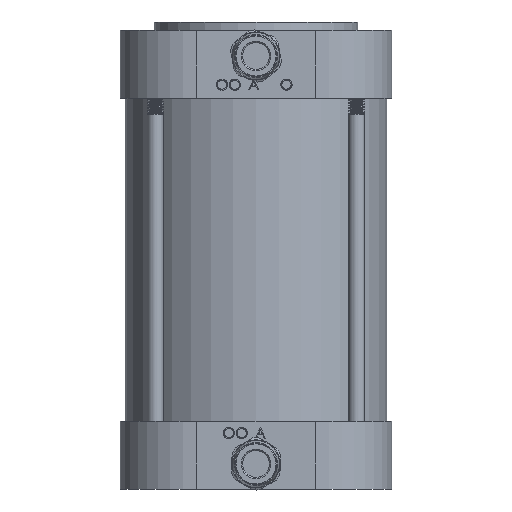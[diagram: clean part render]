
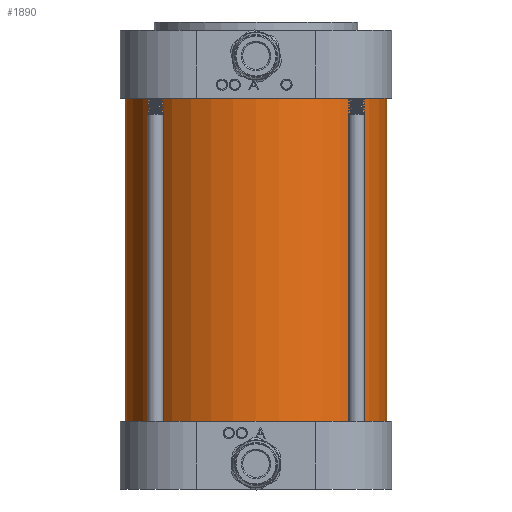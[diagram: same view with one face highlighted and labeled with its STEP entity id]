
A CAD part, front view. The second image highlights one B-rep face of the part: STEP entity #1890.
In plain terms, the highlighted cylindrical face has radius 48.895 mm (diameter 97.79 mm), a partial arc.
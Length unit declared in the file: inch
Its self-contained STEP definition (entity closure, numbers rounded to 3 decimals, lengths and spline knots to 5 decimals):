
#1812 = CARTESIAN_POINT ( 'NONE',  ( 1.925, 0., 5. ) ) ;
#1890 = ADVANCED_FACE ( 'Defeatured_0_213', ( #7604 ), #23340, .T. ) ;
#6054 = DIRECTION ( 'NONE',  ( -1., 0., 0. ) ) ;
#7464 = AXIS2_PLACEMENT_3D ( 'NONE', #24014, #28039, #18799 ) ;
#7604 = FACE_OUTER_BOUND ( 'NONE', #19972, .T. ) ;
#9920 = AXIS2_PLACEMENT_3D ( 'NONE', #41503, #42284, #6054 ) ;
#10910 = CIRCLE ( 'NONE', #7464, 1.925 ) ;
#12946 = VERTEX_POINT ( 'NONE', #30439 ) ;
#14866 = VECTOR ( 'NONE', #22018, 39.37008 ) ;
#17727 = CIRCLE ( 'NONE', #46426, 1.925 ) ;
#18726 = ORIENTED_EDGE ( 'NONE', *, *, #59041, .F. ) ;
#18799 = DIRECTION ( 'NONE',  ( 1., 0., 0. ) ) ;
#19972 = EDGE_LOOP ( 'NONE', ( #34738, #18726, #40457, #47226 ) ) ;
#21532 = EDGE_CURVE ( 'NONE', #48782, #31358, #29667, .T. ) ;
#22018 = DIRECTION ( 'NONE',  ( 0., 0., -1. ) ) ;
#23340 = CYLINDRICAL_SURFACE ( 'NONE', #9920, 1.925 ) ;
#24014 = CARTESIAN_POINT ( 'NONE',  ( 0., 0., 4.875 ) ) ;
#25116 = DIRECTION ( 'NONE',  ( 1., 0., 0. ) ) ;
#25305 = CARTESIAN_POINT ( 'NONE',  ( 0., 0., 0. ) ) ;
#26444 = CARTESIAN_POINT ( 'NONE',  ( -1.925, 0., 5. ) ) ;
#28039 = DIRECTION ( 'NONE',  ( 0., 0., 1. ) ) ;
#28398 = CARTESIAN_POINT ( 'NONE',  ( -1.925, 0., 0. ) ) ;
#29667 = LINE ( 'NONE', #1812, #54716 ) ;
#30439 = CARTESIAN_POINT ( 'NONE',  ( -1.925, 0., 4.875 ) ) ;
#31358 = VERTEX_POINT ( 'NONE', #43077 ) ;
#33843 = DIRECTION ( 'NONE',  ( 0., 0., -1. ) ) ;
#34738 = ORIENTED_EDGE ( 'NONE', *, *, #21532, .F. ) ;
#36794 = CARTESIAN_POINT ( 'NONE',  ( 1.925, 0., 4.875 ) ) ;
#40457 = ORIENTED_EDGE ( 'NONE', *, *, #54390, .T. ) ;
#40624 = EDGE_CURVE ( 'Defeatured_0_213+Defeatured_0_0+Defeatured_0_0+Defeatured_0_0', #45677, #31358, #17727, .T. ) ;
#41503 = CARTESIAN_POINT ( 'NONE',  ( 0., 0., 5. ) ) ;
#42284 = DIRECTION ( 'NONE',  ( 0., 0., -1. ) ) ;
#43077 = CARTESIAN_POINT ( 'NONE',  ( 1.925, 0., 0. ) ) ;
#43363 = DIRECTION ( 'NONE',  ( 0., 0., 1. ) ) ;
#45677 = VERTEX_POINT ( 'NONE', #28398 ) ;
#46426 = AXIS2_PLACEMENT_3D ( 'NONE', #25305, #43363, #25116 ) ;
#47226 = ORIENTED_EDGE ( 'NONE', *, *, #40624, .T. ) ;
#48782 = VERTEX_POINT ( 'NONE', #36794 ) ;
#54390 = EDGE_CURVE ( 'NONE', #12946, #45677, #55075, .T. ) ;
#54716 = VECTOR ( 'NONE', #33843, 39.37008 ) ;
#55075 = LINE ( 'NONE', #26444, #14866 ) ;
#59041 = EDGE_CURVE ( 'Defeatured_0_52+Defeatured_0_213+Defeatured_0_213+Defeatured_0_213', #12946, #48782, #10910, .T. ) ;
